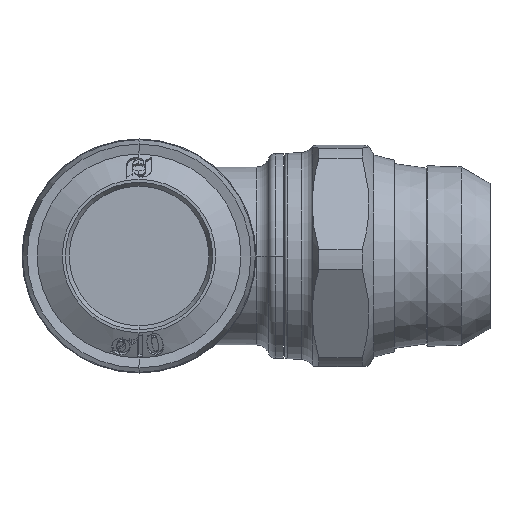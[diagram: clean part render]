
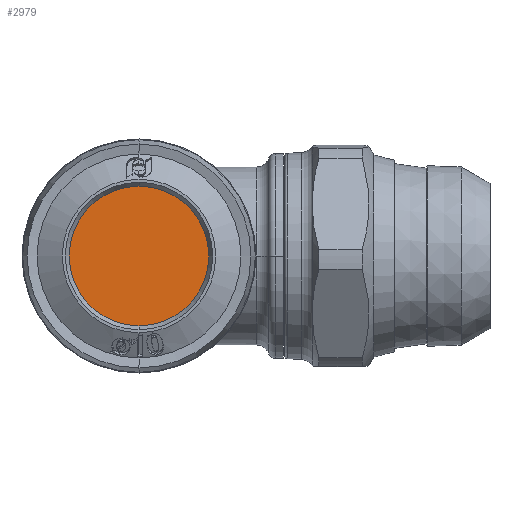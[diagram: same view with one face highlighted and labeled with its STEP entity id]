
A CAD part, left-side view. The second image highlights one B-rep face of the part: STEP entity #2979.
In plain terms, the highlighted planar face has unit normal (-1, 0, 0).
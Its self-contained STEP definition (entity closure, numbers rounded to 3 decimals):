
#2369 = EDGE_CURVE ( 'NONE', #5314, #9952, #9023, .T. ) ;
#2979 = ADVANCED_FACE ( 'NONE', ( #15789 ), #15037, .F. ) ;
#4561 = CARTESIAN_POINT ( 'NONE',  ( -21., 0., 0. ) ) ;
#4562 = DIRECTION ( 'NONE',  ( 1., 0., 0. ) ) ;
#4563 = DIRECTION ( 'NONE',  ( 0., 0., -1. ) ) ;
#5059 = AXIS2_PLACEMENT_3D ( 'NONE', #15045, #15046, #15047 ) ;
#5314 = VERTEX_POINT ( 'NONE', #9449 ) ;
#5318 = EDGE_LOOP ( 'NONE', ( #8768, #8769 ) ) ;
#7380 = AXIS2_PLACEMENT_3D ( 'NONE', #16329, #16330, #16331 ) ;
#7555 = EDGE_CURVE ( 'NONE', #9952, #5314, #18191, .T. ) ;
#8768 = ORIENTED_EDGE ( 'NONE', *, *, #2369, .F. ) ;
#8769 = ORIENTED_EDGE ( 'NONE', *, *, #7555, .F. ) ;
#9023 = CIRCLE ( 'NONE', #9091, 5.1 ) ;
#9091 = AXIS2_PLACEMENT_3D ( 'NONE', #4561, #4562, #4563 ) ;
#9449 = CARTESIAN_POINT ( 'NONE',  ( -21., 0., -5.1 ) ) ;
#9952 = VERTEX_POINT ( 'NONE', #14280 ) ;
#14280 = CARTESIAN_POINT ( 'NONE',  ( -21., 0., 5.1 ) ) ;
#15037 = PLANE ( 'NONE',  #5059 ) ;
#15045 = CARTESIAN_POINT ( 'NONE',  ( -21., 0., 0. ) ) ;
#15046 = DIRECTION ( 'NONE',  ( 1., 0., 0. ) ) ;
#15047 = DIRECTION ( 'NONE',  ( 0., 0., 1. ) ) ;
#15789 = FACE_OUTER_BOUND ( 'NONE', #5318, .T. ) ;
#16329 = CARTESIAN_POINT ( 'NONE',  ( -21., 0., 0. ) ) ;
#16330 = DIRECTION ( 'NONE',  ( 1., 0., 0. ) ) ;
#16331 = DIRECTION ( 'NONE',  ( 0., 0., -1. ) ) ;
#18191 = CIRCLE ( 'NONE', #7380, 5.1 ) ;
